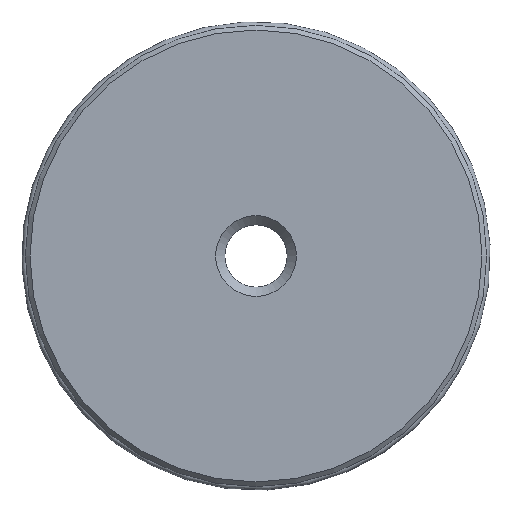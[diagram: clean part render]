
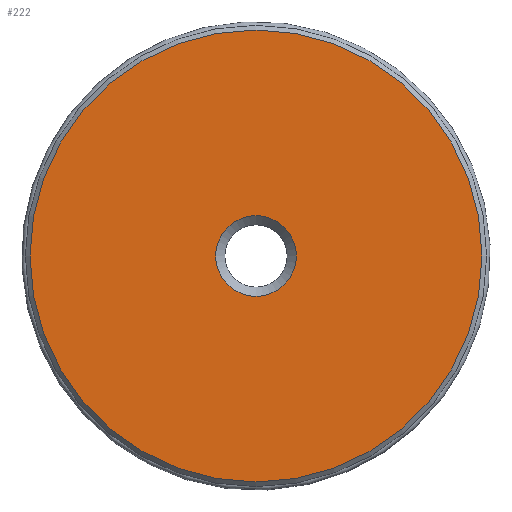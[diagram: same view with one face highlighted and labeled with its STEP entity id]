
A CAD part, front view. The second image highlights one B-rep face of the part: STEP entity #222.
In plain terms, the highlighted planar face has unit normal (0, -1, 0).
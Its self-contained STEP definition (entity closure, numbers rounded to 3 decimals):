
#16=FACE_BOUND('',#44,.T.);
#20=PLANE('',#260);
#30=FACE_OUTER_BOUND('',#43,.T.);
#43=EDGE_LOOP('',(#153));
#44=EDGE_LOOP('',(#154));
#74=CIRCLE('',#255,4.375);
#78=CIRCLE('',#261,24.5);
#95=VERTEX_POINT('',#368);
#99=VERTEX_POINT('',#380);
#115=EDGE_CURVE('',#95,#95,#74,.T.);
#121=EDGE_CURVE('',#99,#99,#78,.T.);
#153=ORIENTED_EDGE('',*,*,#121,.F.);
#154=ORIENTED_EDGE('',*,*,#115,.F.);
#222=ADVANCED_FACE('',(#30,#16),#20,.T.);
#255=AXIS2_PLACEMENT_3D('',#369,#292,#293);
#260=AXIS2_PLACEMENT_3D('',#379,#304,#305);
#261=AXIS2_PLACEMENT_3D('',#381,#306,#307);
#292=DIRECTION('center_axis',(0.,-1.,0.));
#293=DIRECTION('ref_axis',(1.,0.,0.));
#304=DIRECTION('center_axis',(0.,-1.,0.));
#305=DIRECTION('ref_axis',(0.,0.,-1.));
#306=DIRECTION('center_axis',(0.,1.,0.));
#307=DIRECTION('ref_axis',(-1.,0.,0.));
#368=CARTESIAN_POINT('',(-5.106,16.533,-3.979));
#369=CARTESIAN_POINT('Origin',(-0.731,16.533,-3.979));
#379=CARTESIAN_POINT('Origin',(-0.731,16.533,-3.979));
#380=CARTESIAN_POINT('',(23.769,16.533,-3.979));
#381=CARTESIAN_POINT('Origin',(-0.731,16.533,-3.979));
